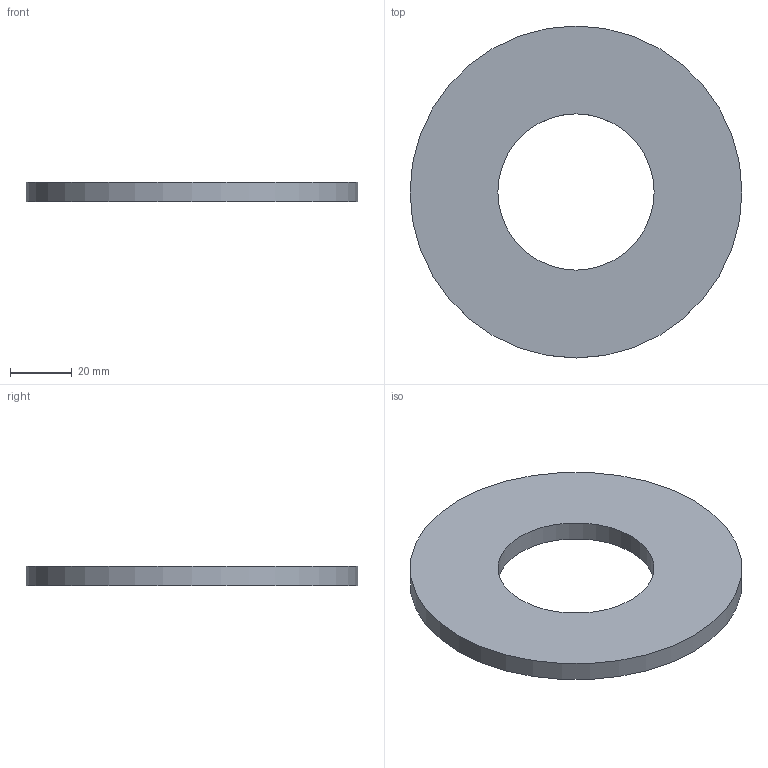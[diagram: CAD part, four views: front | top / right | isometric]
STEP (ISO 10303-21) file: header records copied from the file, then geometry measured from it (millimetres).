
FILE_DESCRIPTION(/* description */ (''),/* implementation_level */ '2;1');
FILE_NAME(/* name */ 'C:\001_Work\Designs\HLW\HLW-1.875.stp',/* time_stamp */ '2015-09-04T09:03:35-04:00',/* author */ ('rramoutar'),/* organization */ ('Mason Industries Inc.'),/* preprocessor_version */ 'ST-DEVELOPER v15.6',/* originating_system */ 'Autodesk Inventor 2015',/* authorisation */ '');
FILE_SCHEMA (('AUTOMOTIVE_DESIGN { 1 0 10303 214 3 1 1 }'));
Length unit declared in the file: inch
Products named in the file (1): HLW-1.875
Bounding box: 107.95 x 107.95 x 6.35 mm (x, y, z)
Volume: 45247.4 mm3; surface area: 17418.1 mm2
Topology: 1 solids, 1 shells, 4 faces, 6 edges, 4 vertices
Faces by surface type: cylinder 2, plane 2
Full cylindrical faces by diameter (mm): 50.8 x1, 107.95 x1
Entity records: 114 total; most frequent: DIRECTION 18, CARTESIAN_POINT 13, AXIS2_PLACEMENT_3D 9, EDGE_LOOP 8, ORIENTED_EDGE 8, FACE_BOUND 4, FACE_OUTER_BOUND 4, CIRCLE 4
